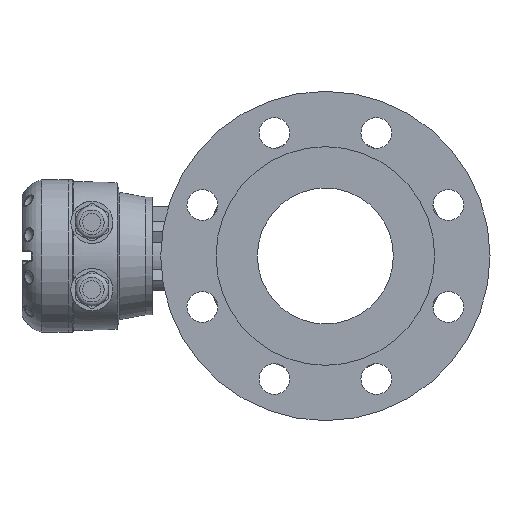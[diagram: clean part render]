
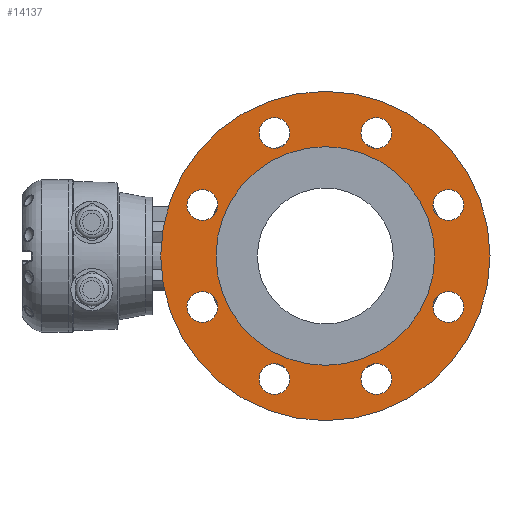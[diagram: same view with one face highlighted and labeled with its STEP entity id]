
A CAD part, left-side view. The second image highlights one B-rep face of the part: STEP entity #14137.
In plain terms, the highlighted planar face has unit normal (-1, 0, 0).
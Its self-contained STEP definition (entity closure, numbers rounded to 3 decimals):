
#78 = ORIENTED_EDGE ( 'NONE', *, *, #3237, .T. ) ;
#79 = ORIENTED_EDGE ( 'NONE', *, *, #13199, .F. ) ;
#80 = ORIENTED_EDGE ( 'NONE', *, *, #3417, .F. ) ;
#81 = ORIENTED_EDGE ( 'NONE', *, *, #3153, .F. ) ;
#82 = ORIENTED_EDGE ( 'NONE', *, *, #3418, .F. ) ;
#83 = ORIENTED_EDGE ( 'NONE', *, *, #3131, .F. ) ;
#84 = ORIENTED_EDGE ( 'NONE', *, *, #13153, .F. ) ;
#85 = ORIENTED_EDGE ( 'NONE', *, *, #13154, .F. ) ;
#86 = ORIENTED_EDGE ( 'NONE', *, *, #13194, .F. ) ;
#87 = ORIENTED_EDGE ( 'NONE', *, *, #13237, .F. ) ;
#3131 = EDGE_CURVE ( 'NONE', #15598, #15598, #6743, .T. ) ;
#3153 = EDGE_CURVE ( 'NONE', #15608, #15608, #10540, .T. ) ;
#3237 = EDGE_CURVE ( 'NONE', #15642, #15642, #10647, .T. ) ;
#3417 = EDGE_CURVE ( 'NONE', #15720, #15720, #10833, .T. ) ;
#3418 = EDGE_CURVE ( 'NONE', #15722, #15722, #10835, .T. ) ;
#5232 = DIRECTION ( 'NONE',  ( 0., 0., 1. ) ) ;
#5234 = DIRECTION ( 'NONE',  ( -1., 0., 0. ) ) ;
#5275 = DIRECTION ( 'NONE',  ( -1., 0., 0. ) ) ;
#5280 = DIRECTION ( 'NONE',  ( 0., 0., 1. ) ) ;
#5285 = CARTESIAN_POINT ( 'NONE',  ( -114.805, -204.785, -46.898 ) ) ;
#5406 = CARTESIAN_POINT ( 'NONE',  ( -114.805, -80.662, -98.311 ) ) ;
#6307 = EDGE_LOOP ( 'NONE', ( #87 ) ) ;
#6374 = EDGE_LOOP ( 'NONE', ( #78 ) ) ;
#6376 = EDGE_LOOP ( 'NONE', ( #79 ) ) ;
#6377 = EDGE_LOOP ( 'NONE', ( #80 ) ) ;
#6378 = EDGE_LOOP ( 'NONE', ( #81 ) ) ;
#6379 = EDGE_LOOP ( 'NONE', ( #82 ) ) ;
#6380 = EDGE_LOOP ( 'NONE', ( #83 ) ) ;
#6381 = EDGE_LOOP ( 'NONE', ( #84 ) ) ;
#6383 = EDGE_LOOP ( 'NONE', ( #85 ) ) ;
#6384 = EDGE_LOOP ( 'NONE', ( #86 ) ) ;
#6743 = CIRCLE ( 'NONE', #13454, 11. ) ;
#7014 = CARTESIAN_POINT ( 'NONE',  ( -114.805, -153.372, 77.226 ) ) ;
#7017 = CARTESIAN_POINT ( 'NONE',  ( -114.805, -204.785, 25.812 ) ) ;
#7028 = DIRECTION ( 'NONE',  ( -1., 0., 0. ) ) ;
#7029 = DIRECTION ( 'NONE',  ( 0., 0., 1. ) ) ;
#7030 = DIRECTION ( 'NONE',  ( -1., 0., 0. ) ) ;
#7031 = DIRECTION ( 'NONE',  ( 0., 0., 1. ) ) ;
#7108 = CARTESIAN_POINT ( 'NONE',  ( -114.805, -80.662, 77.226 ) ) ;
#7112 = DIRECTION ( 'NONE',  ( -1., 0., 0. ) ) ;
#7113 = DIRECTION ( 'NONE',  ( 0., 0., 1. ) ) ;
#7119 = CARTESIAN_POINT ( 'NONE',  ( -114.805, -117.017, -10.543 ) ) ;
#7125 = DIRECTION ( 'NONE',  ( 1., 0., 0. ) ) ;
#7126 = DIRECTION ( 'NONE',  ( 0., 0., -1. ) ) ;
#7216 = CARTESIAN_POINT ( 'NONE',  ( -114.805, -29.248, 25.812 ) ) ;
#7223 = DIRECTION ( 'NONE',  ( -1., 0., 0. ) ) ;
#7224 = DIRECTION ( 'NONE',  ( 0., 0., 1. ) ) ;
#8197 = CARTESIAN_POINT ( 'NONE',  ( -114.805, -117.017, -10.543 ) ) ;
#8204 = DIRECTION ( 'NONE',  ( 1., 0., 0. ) ) ;
#8205 = DIRECTION ( 'NONE',  ( 0., 0., -1. ) ) ;
#9370 = CARTESIAN_POINT ( 'NONE',  ( -114.805, -29.248, -46.898 ) ) ;
#9446 = CARTESIAN_POINT ( 'NONE',  ( -114.805, -153.372, -98.311 ) ) ;
#9458 = DIRECTION ( 'NONE',  ( -1., 0., 0. ) ) ;
#9459 = DIRECTION ( 'NONE',  ( 0., 0., 1. ) ) ;
#9461 = DIRECTION ( 'NONE',  ( -1., 0., 0. ) ) ;
#9462 = DIRECTION ( 'NONE',  ( 0., 0., 1. ) ) ;
#9661 = FACE_BOUND ( 'NONE', #6379, .T. ) ;
#9662 = FACE_BOUND ( 'NONE', #6307, .T. ) ;
#9666 = FACE_BOUND ( 'NONE', #6380, .T. ) ;
#9667 = FACE_BOUND ( 'NONE', #6374, .T. ) ;
#9668 = FACE_BOUND ( 'NONE', #6384, .T. ) ;
#9669 = FACE_BOUND ( 'NONE', #6378, .T. ) ;
#9670 = FACE_BOUND ( 'NONE', #6383, .T. ) ;
#9671 = FACE_BOUND ( 'NONE', #6377, .T. ) ;
#9672 = FACE_BOUND ( 'NONE', #6381, .T. ) ;
#9673 = FACE_OUTER_BOUND ( 'NONE', #6376, .T. ) ;
#10540 = CIRCLE ( 'NONE', #13460, 11. ) ;
#10647 = CIRCLE ( 'NONE', #13502, 78. ) ;
#10833 = CIRCLE ( 'NONE', #13576, 11. ) ;
#10835 = CIRCLE ( 'NONE', #13580, 11. ) ;
#11216 = CIRCLE ( 'NONE', #13725, 11. ) ;
#11218 = CIRCLE ( 'NONE', #13728, 11. ) ;
#11296 = CIRCLE ( 'NONE', #13729, 11. ) ;
#11302 = CIRCLE ( 'NONE', #13730, 117.5 ) ;
#11357 = CIRCLE ( 'NONE', #13735, 11. ) ;
#12273 = PLANE ( 'NONE',  #13850 ) ;
#12280 = CARTESIAN_POINT ( 'NONE',  ( -114.805, -117.017, -10.543 ) ) ;
#12285 = DIRECTION ( 'NONE',  ( -1., 0., 0. ) ) ;
#12286 = DIRECTION ( 'NONE',  ( 0., 0., -1. ) ) ;
#13153 = EDGE_CURVE ( 'NONE', #15772, #15772, #11216, .T. ) ;
#13154 = EDGE_CURVE ( 'NONE', #15774, #15774, #11218, .T. ) ;
#13194 = EDGE_CURVE ( 'NONE', #15778, #15778, #11296, .T. ) ;
#13199 = EDGE_CURVE ( 'NONE', #15780, #15780, #11302, .T. ) ;
#13237 = EDGE_CURVE ( 'NONE', #15788, #15788, #11357, .T. ) ;
#13454 = AXIS2_PLACEMENT_3D ( 'NONE', #5285, #5275, #5280 ) ;
#13460 = AXIS2_PLACEMENT_3D ( 'NONE', #5406, #5234, #5232 ) ;
#13502 = AXIS2_PLACEMENT_3D ( 'NONE', #8197, #8204, #8205 ) ;
#13576 = AXIS2_PLACEMENT_3D ( 'NONE', #9370, #9458, #9459 ) ;
#13580 = AXIS2_PLACEMENT_3D ( 'NONE', #9446, #9461, #9462 ) ;
#13725 = AXIS2_PLACEMENT_3D ( 'NONE', #7017, #7028, #7029 ) ;
#13728 = AXIS2_PLACEMENT_3D ( 'NONE', #7014, #7030, #7031 ) ;
#13729 = AXIS2_PLACEMENT_3D ( 'NONE', #7108, #7112, #7113 ) ;
#13730 = AXIS2_PLACEMENT_3D ( 'NONE', #7119, #7125, #7126 ) ;
#13735 = AXIS2_PLACEMENT_3D ( 'NONE', #7216, #7223, #7224 ) ;
#13850 = AXIS2_PLACEMENT_3D ( 'NONE', #12280, #12285, #12286 ) ;
#14137 = ADVANCED_FACE ( 'NONE', ( #9662, #9668, #9670, #9672, #9666, #9661, #9669, #9671, #9673, #9667 ), #12273, .T. ) ;
#15598 = VERTEX_POINT ( 'NONE', #15599 ) ;
#15599 = CARTESIAN_POINT ( 'NONE',  ( -114.805, -204.785, -35.898 ) ) ;
#15608 = VERTEX_POINT ( 'NONE', #15609 ) ;
#15609 = CARTESIAN_POINT ( 'NONE',  ( -114.805, -80.662, -87.311 ) ) ;
#15642 = VERTEX_POINT ( 'NONE', #15643 ) ;
#15643 = CARTESIAN_POINT ( 'NONE',  ( -114.805, -117.017, -88.543 ) ) ;
#15720 = VERTEX_POINT ( 'NONE', #15721 ) ;
#15721 = CARTESIAN_POINT ( 'NONE',  ( -114.805, -29.248, -35.898 ) ) ;
#15722 = VERTEX_POINT ( 'NONE', #15723 ) ;
#15723 = CARTESIAN_POINT ( 'NONE',  ( -114.805, -153.372, -87.311 ) ) ;
#15772 = VERTEX_POINT ( 'NONE', #15773 ) ;
#15773 = CARTESIAN_POINT ( 'NONE',  ( -114.805, -204.785, 36.812 ) ) ;
#15774 = VERTEX_POINT ( 'NONE', #15775 ) ;
#15775 = CARTESIAN_POINT ( 'NONE',  ( -114.805, -153.372, 88.226 ) ) ;
#15778 = VERTEX_POINT ( 'NONE', #15779 ) ;
#15779 = CARTESIAN_POINT ( 'NONE',  ( -114.805, -80.662, 88.226 ) ) ;
#15780 = VERTEX_POINT ( 'NONE', #15781 ) ;
#15781 = CARTESIAN_POINT ( 'NONE',  ( -114.805, -117.017, -128.043 ) ) ;
#15788 = VERTEX_POINT ( 'NONE', #15789 ) ;
#15789 = CARTESIAN_POINT ( 'NONE',  ( -114.805, -29.248, 36.812 ) ) ;
